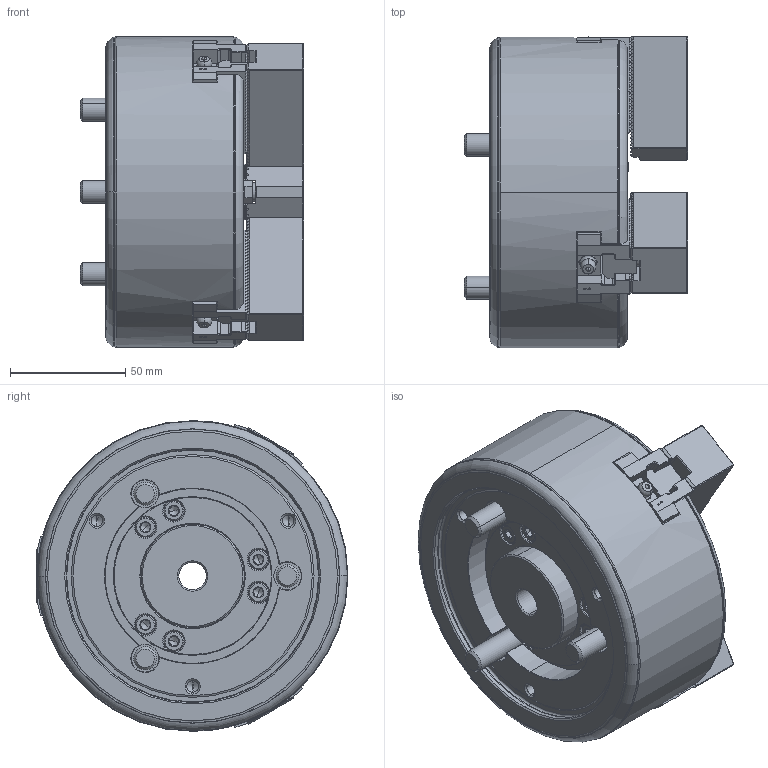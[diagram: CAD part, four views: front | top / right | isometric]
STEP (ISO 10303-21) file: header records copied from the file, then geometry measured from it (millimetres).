
FILE_DESCRIPTION (( 'STEP AP214' ), '1' );
FILE_NAME ('DEV-BR05-OUTSIDE_VIEW_HUL.STEP', '2024-06-05T00:33:26', ( '' ), ( '' ), 'SwSTEP 2.0', 'SolidWorks 2022', '' );
FILE_SCHEMA (( 'AUTOMOTIVE_DESIGN' ));
Length unit declared in the file: millimetre
Products named in the file (9): DEV-BR05-0033104006; DEV-BR05-61P422122; Part2^DEV-BR05-61P866277; DEV-BR05-OUTSIDE_VIEW_HUL; DEV-BR05-0030108020; DEV-BR05-61P422119; DEV-BR05-0030110060; DEV-BR05-61P422113; DEV-BR05-61P866266
Assembly tree (21 placements, depth 2):
  DEV-BR05-OUTSIDE_VIEW_HUL
    DEV-BR05-61P866266
    DEV-BR05-61P422119  x3
    DEV-BR05-61P422113  x3
    DEV-BR05-61P422122
    DEV-BR05-0030110060  x3
    DEV-BR05-0033104006  x3
    DEV-BR05-0030108020  x6
    Part2^DEV-BR05-61P866277
Bounding box: 97 x 135.52 x 135 mm (x, y, z)
Volume: 815715.1 mm3; surface area: 149438.5 mm2
Topology: 21 solids, 30 shells, 3509 faces, 9768 edges, 6322 vertices
Faces by surface type: plane 2386, cylinder 453, cone 416, bspline 141, torus 100, sphere 13
Entity records: 93975 total; most frequent: CARTESIAN_POINT 24391, ORIENTED_EDGE 15144, DIRECTION 13178, EDGE_CURVE 7572, VECTOR 5352, LINE 5352, VERTEX_POINT 4940, AXIS2_PLACEMENT_3D 3913
